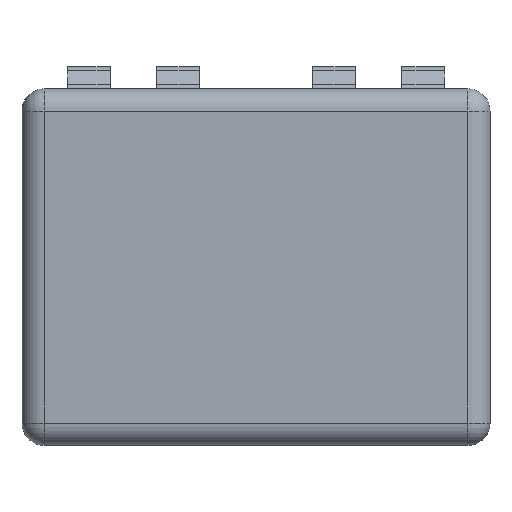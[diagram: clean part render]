
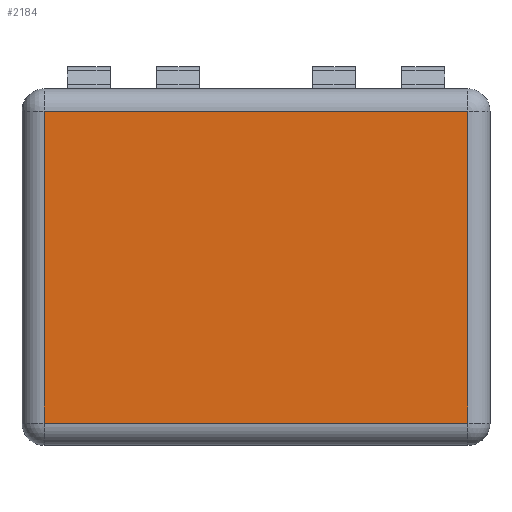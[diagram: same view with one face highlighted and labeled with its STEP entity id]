
A CAD part, top view. The second image highlights one B-rep face of the part: STEP entity #2184.
In plain terms, the highlighted planar face has unit normal (0, 0, 1).
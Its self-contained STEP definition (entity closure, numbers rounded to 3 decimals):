
#86 = VERTEX_POINT ( 'NONE', #1240 ) ;
#95 = DIRECTION ( 'NONE',  ( 1., 0., 0. ) ) ;
#259 = VERTEX_POINT ( 'NONE', #1549 ) ;
#478 = VECTOR ( 'NONE', #2619, 1000. ) ;
#504 = CARTESIAN_POINT ( 'NONE',  ( 47.5, 0., 11. ) ) ;
#584 = DIRECTION ( 'NONE',  ( 0., 0., -1. ) ) ;
#778 = CARTESIAN_POINT ( 'NONE',  ( -47.5, 0., 11. ) ) ;
#795 = VECTOR ( 'NONE', #95, 1000. ) ;
#973 = AXIS2_PLACEMENT_3D ( 'NONE', #1238, #584, #2133 ) ;
#1058 = VERTEX_POINT ( 'NONE', #1324 ) ;
#1238 = CARTESIAN_POINT ( 'NONE',  ( 0., 0., 11. ) ) ;
#1240 = CARTESIAN_POINT ( 'NONE',  ( -47.5, -35., 11. ) ) ;
#1264 = ORIENTED_EDGE ( 'NONE', *, *, #3134, .T. ) ;
#1324 = CARTESIAN_POINT ( 'NONE',  ( -47.5, 35., 11. ) ) ;
#1347 = CARTESIAN_POINT ( 'NONE',  ( 0., -35., 11. ) ) ;
#1450 = LINE ( 'NONE', #778, #478 ) ;
#1525 = EDGE_LOOP ( 'NONE', ( #2984, #3394, #1908, #1264 ) ) ;
#1549 = CARTESIAN_POINT ( 'NONE',  ( 47.5, 35., 11. ) ) ;
#1616 = VECTOR ( 'NONE', #3200, 1000. ) ;
#1908 = ORIENTED_EDGE ( 'NONE', *, *, #3135, .T. ) ;
#2029 = CARTESIAN_POINT ( 'NONE',  ( 0., 35., 11. ) ) ;
#2114 = FACE_OUTER_BOUND ( 'NONE', #1525, .T. ) ;
#2133 = DIRECTION ( 'NONE',  ( -1., 0., 0. ) ) ;
#2184 = ADVANCED_FACE ( 'NONE', ( #2114 ), #2697, .F. ) ;
#2331 = DIRECTION ( 'NONE',  ( -1., 0., 0. ) ) ;
#2539 = VECTOR ( 'NONE', #2331, 1000. ) ;
#2597 = LINE ( 'NONE', #504, #1616 ) ;
#2619 = DIRECTION ( 'NONE',  ( 0., -1., 0. ) ) ;
#2697 = PLANE ( 'NONE',  #973 ) ;
#2770 = LINE ( 'NONE', #1347, #795 ) ;
#2820 = CARTESIAN_POINT ( 'NONE',  ( 47.5, -35., 11. ) ) ;
#2984 = ORIENTED_EDGE ( 'NONE', *, *, #3157, .T. ) ;
#2994 = VERTEX_POINT ( 'NONE', #2820 ) ;
#3134 = EDGE_CURVE ( 'NONE', #259, #1058, #3858, .T. ) ;
#3135 = EDGE_CURVE ( 'NONE', #2994, #259, #2597, .T. ) ;
#3157 = EDGE_CURVE ( 'NONE', #1058, #86, #1450, .T. ) ;
#3200 = DIRECTION ( 'NONE',  ( 0., 1., 0. ) ) ;
#3394 = ORIENTED_EDGE ( 'NONE', *, *, #3811, .T. ) ;
#3811 = EDGE_CURVE ( 'NONE', #86, #2994, #2770, .T. ) ;
#3858 = LINE ( 'NONE', #2029, #2539 ) ;
